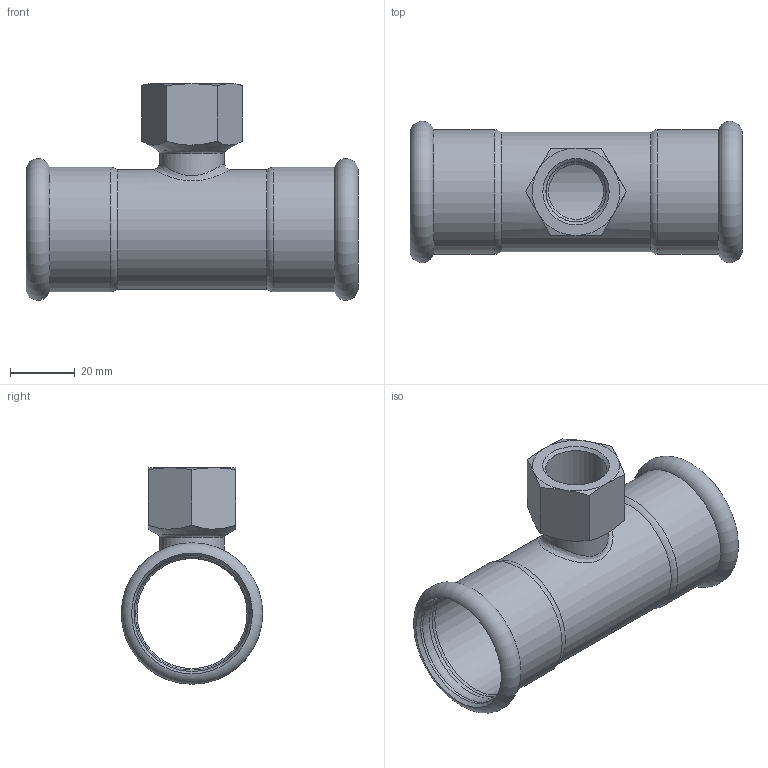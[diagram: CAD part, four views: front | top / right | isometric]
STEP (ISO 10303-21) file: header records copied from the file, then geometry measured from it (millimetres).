
FILE_DESCRIPTION(/* description */ (''),/* implementation_level */ '2;1');
FILE_NAME(/* name */ 'R:\Disegni3D_Area_Manager\Steelpres.step\389_STEELPRES\389102035_Steelpres.stp',/* time_stamp */ '2022-10-21T15:44:15+02:00',/* author */ ('Vault'),/* organization */ ('Raccorderie metalliche s.p.a. '),/* preprocessor_version */ 'ST-DEVELOPER v18.1',/* originating_system */ 'Autodesk Inventor 2020',/* authorisation */ 'Raccorderie metalliche s.p.a. ');
FILE_SCHEMA (('AUTOMOTIVE_DESIGN { 1 0 10303 214 3 1 1 }'));
Length unit declared in the file: millimetre
Products named in the file (1): 389102035_Steelpres
Bounding box: 102.5 x 43.68 x 66.84 mm (x, y, z)
Volume: 28311.7 mm3; surface area: 28330.7 mm2
Topology: 1 solids, 1 shells, 50 faces, 156 edges, 108 vertices
Faces by surface type: cylinder 15, cone 12, torus 11, plane 10, bspline 2
Full cylindrical faces by diameter (mm): 17 x1, 17.6 x1, 18.5 x1, 18.631 x1, 20 x1, 34 x1, 35.4 x2, 35.8 x4, 37 x1, 38.4 x2
Entity records: 2195 total; most frequent: CARTESIAN_POINT 676, DIRECTION 328, ORIENTED_EDGE 314, EDGE_CURVE 157, AXIS2_PLACEMENT_3D 150, VERTEX_POINT 109, CIRCLE 101, EDGE_LOOP 54
